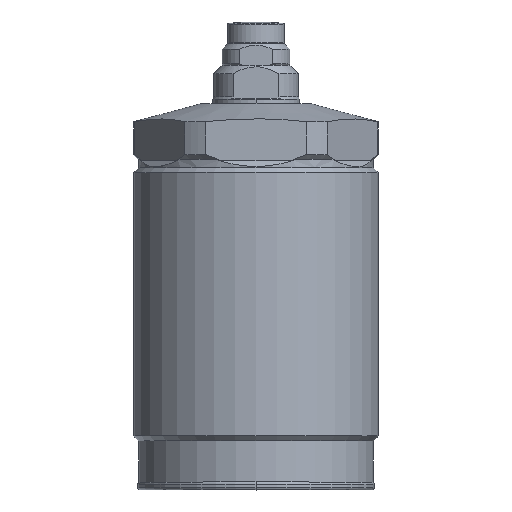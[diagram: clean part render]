
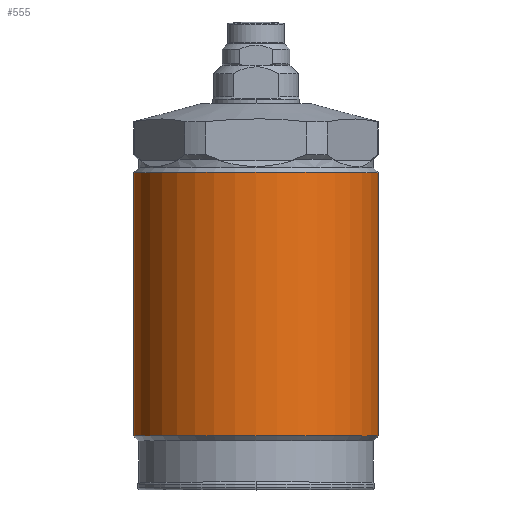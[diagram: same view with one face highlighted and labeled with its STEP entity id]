
A CAD part, top view. The second image highlights one B-rep face of the part: STEP entity #555.
In plain terms, the highlighted cylindrical face has radius 22.5 mm (diameter 45 mm), a partial arc.
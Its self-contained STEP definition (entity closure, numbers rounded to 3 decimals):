
#555=ADVANCED_FACE('',(#811),#713,.T.);
#713=CYLINDRICAL_SURFACE('',#3439,22.5);
#811=FACE_OUTER_BOUND('',#993,.T.);
#993=EDGE_LOOP('',(#1667,#1668,#1669,#1670));
#1193=LINE('',#5141,#1325);
#1194=LINE('',#5142,#1326);
#1325=VECTOR('',#4101,1.);
#1326=VECTOR('',#4102,1.);
#1667=ORIENTED_EDGE('',*,*,#2722,.T.);
#1668=ORIENTED_EDGE('',*,*,#2723,.T.);
#1669=ORIENTED_EDGE('',*,*,#2720,.F.);
#1670=ORIENTED_EDGE('',*,*,#2724,.F.);
#2399=VERTEX_POINT('',#5133);
#2400=VERTEX_POINT('',#5135);
#2401=VERTEX_POINT('',#5139);
#2402=VERTEX_POINT('',#5140);
#2720=EDGE_CURVE('',#2399,#2400,#3119,.T.);
#2722=EDGE_CURVE('',#2401,#2402,#3120,.T.);
#2723=EDGE_CURVE('',#2402,#2400,#1193,.T.);
#2724=EDGE_CURVE('',#2401,#2399,#1194,.T.);
#3119=CIRCLE('',#3436,22.5);
#3120=CIRCLE('',#3438,22.5);
#3436=AXIS2_PLACEMENT_3D('',#5134,#4094,#4095);
#3438=AXIS2_PLACEMENT_3D('',#5138,#4099,#4100);
#3439=AXIS2_PLACEMENT_3D('',#5143,#4103,#4104);
#4094=DIRECTION('',(0.,-1.,0.));
#4095=DIRECTION('',(1.,0.,0.));
#4099=DIRECTION('',(0.,-1.,0.));
#4100=DIRECTION('',(1.,0.,0.));
#4101=DIRECTION('',(0.,-1.,0.));
#4102=DIRECTION('',(0.,-1.,0.));
#4103=DIRECTION('',(0.,-1.,0.));
#4104=DIRECTION('',(-1.,0.,0.));
#5133=CARTESIAN_POINT('',(22.5,-61.1,0.));
#5134=CARTESIAN_POINT('',(0.,-61.1,0.));
#5135=CARTESIAN_POINT('',(-22.5,-61.1,0.));
#5138=CARTESIAN_POINT('',(0.,-12.7,0.));
#5139=CARTESIAN_POINT('',(22.5,-12.7,0.));
#5140=CARTESIAN_POINT('',(-22.5,-12.7,0.));
#5141=CARTESIAN_POINT('',(-22.5,1.,0.));
#5142=CARTESIAN_POINT('',(22.5,1.,0.));
#5143=CARTESIAN_POINT('',(0.,1.,0.));
